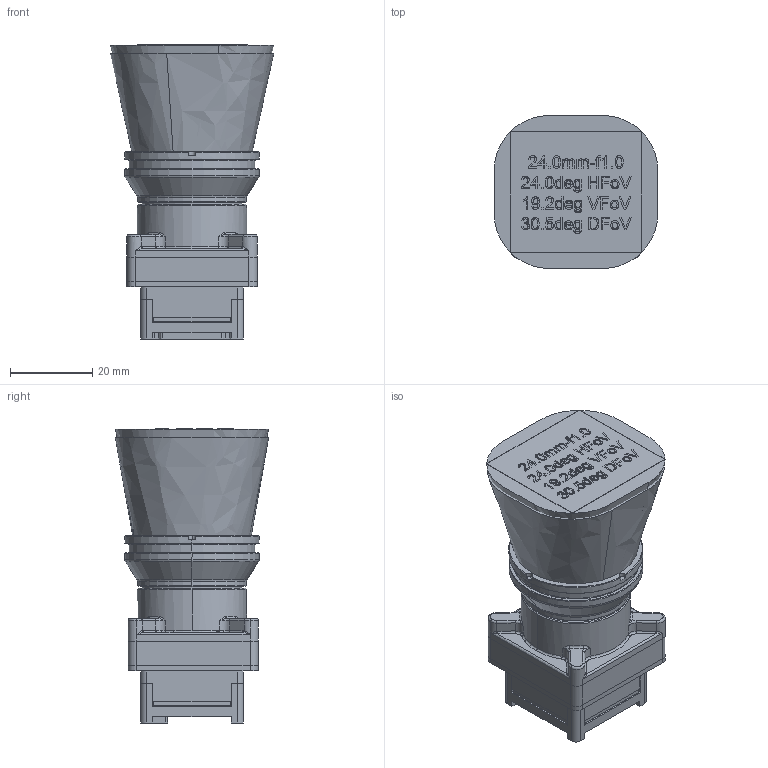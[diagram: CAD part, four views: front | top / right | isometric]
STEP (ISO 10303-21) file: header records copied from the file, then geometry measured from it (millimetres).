
FILE_DESCRIPTION (( 'STEP AP214' ), '1' );
FILE_NAME ('801280X0024-XXXXXX Boson SX8, 24mm-f1.0, 24deg HFoV Export.STEP', '2026-05-07T16:41:57', ( '' ), ( '' ), 'SwSTEP 2.0', 'SolidWorks 2025', '' );
FILE_SCHEMA (( 'AUTOMOTIVE_DESIGN' ));
Length unit declared in the file: millimetre
Products named in the file (4): Optical Cone, 24mm-f1.0, 24deg HFoV; Lens Assy, 24mm-f1.0; 801280X0024-XXXXXX Boson SX8, 24mm-f1.0, 24deg HFoV Export; 80-Boson SX8 Camera Core M24
Assembly tree (3 placements, depth 2):
  801280X0024-XXXXXX Boson SX8, 24mm-f1.0, 24deg HFoV Export
    80-Boson SX8 Camera Core M24
    Lens Assy, 24mm-f1.0
    Optical Cone, 24mm-f1.0, 24deg HFoV
Bounding box: 39.75 x 37.26 x 71.42 mm (x, y, z)
Volume: 69879.2 mm3; surface area: 34435.4 mm2
Topology: 29 solids, 32 shells, 7181 faces, 19219 edges, 12491 vertices
Faces by surface type: plane 4847, cylinder 1447, bspline 450, cone 224, torus 197, sphere 16
Entity records: 323451 total; most frequent: CARTESIAN_POINT 65472, ORIENTED_EDGE 38354, DIRECTION 34854, EDGE_CURVE 19177, VECTOR 14770, LINE 14770, VERTEX_POINT 12491, AXIS2_PLACEMENT_3D 10042
